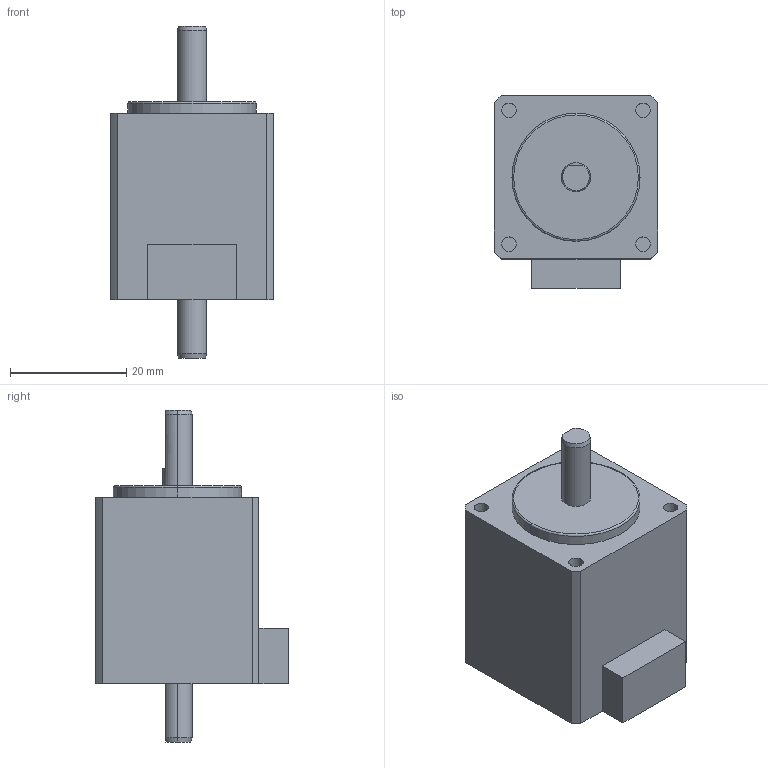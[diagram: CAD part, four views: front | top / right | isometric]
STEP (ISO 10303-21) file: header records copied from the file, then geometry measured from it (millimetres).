
FILE_DESCRIPTION (( 'STEP AP203' ), '1' );
FILE_NAME ('PMSB-U28DA1D_3D.STEP', '2016-11-15T02:48:07', ( 'SKJ00869' ), ( '' ), 'SwSTEP 2.0', 'SolidWorks 2014', '' );
FILE_SCHEMA (( 'CONFIG_CONTROL_DESIGN' ));
Length unit declared in the file: millimetre
Products named in the file (1): PMSB-U28DA1D_3D
Bounding box: 28 x 33 x 57 mm (x, y, z)
Volume: 26827.2 mm3; surface area: 6690.4 mm2
Topology: 2 solids, 2 shells, 48 faces, 108 edges, 70 vertices
Faces by surface type: plane 21, cylinder 19, cone 6, torus 2
Entity records: 1433 total; most frequent: DIRECTION 252, CARTESIAN_POINT 239, ORIENTED_EDGE 216, EDGE_CURVE 108, AXIS2_PLACEMENT_3D 99, VERTEX_POINT 70, EDGE_LOOP 54, LINE 54
